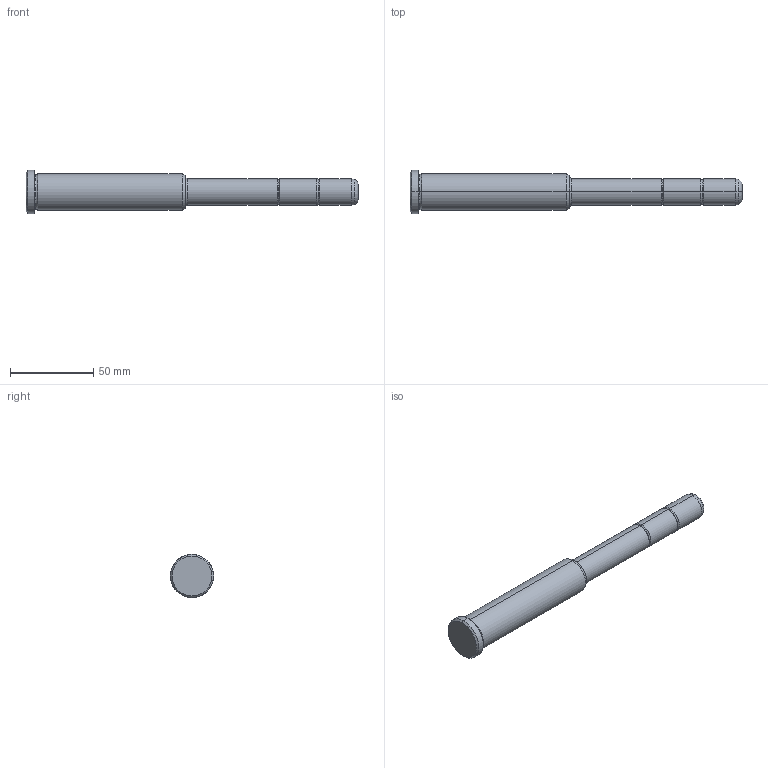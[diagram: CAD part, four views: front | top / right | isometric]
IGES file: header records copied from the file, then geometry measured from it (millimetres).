
Start section: START RECORD GO HERE.
Global section: file name: 351-16X96X200.igs; native system: DASSAULT SYSTEMES CATIA V5 R20 - www.3ds.com; preprocessor: CATIA Version 5 Release 20 ; author: Utente; organization: NB04-ASUS; date: 20210818.145314; units: millimetre
Bounding box: 200 x 26 x 26 mm (x, y, z)
Surface area: 12808.7 mm2 (no closed solid volume)
Topology: 0 solids, 0 shells, 36 faces, 204 edges, 204 vertices
Faces by surface type: revolution 32, plane 4
